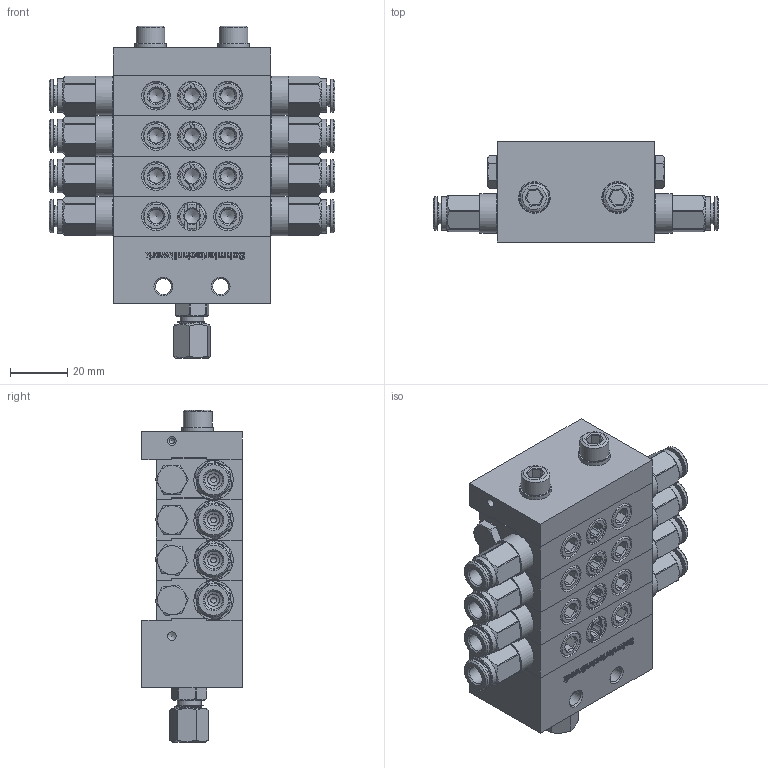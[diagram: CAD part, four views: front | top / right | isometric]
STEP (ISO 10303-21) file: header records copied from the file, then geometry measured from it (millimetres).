
FILE_DESCRIPTION (( 'STEP AP214' ), '1' );
FILE_NAME ('STW_XV_0143_08_0502_08_Auslässe.STEP', '2026-02-04T10:52:52', ( '' ), ( '' ), 'SwSTEP 2.0', 'SolidWorks 2022', '' );
FILE_SCHEMA (( 'AUTOMOTIVE_DESIGN' ));
Length unit declared in the file: millimetre
Products named in the file (18): STW_XV_Kolbenanschlag; 991214010601; M6X65_DIN_912; RIVOLUZIONE_0_2; 991214010601_Koerper; 991214010601_Mutter; Verschlussstopfen_1_8_2; U_Scheibe_6; STW_XV_Verbindungsstopen; XV_Mittelelement; H200139_HDS01_6_M10X1_08.05.17; 991214010601_Schneidring; STW_XV_ENGANG; STW_XV_0143_08_0502_08_Auslässe; STW_XV_END; OR 7.66X1.78_1; STW_XV_MITTEL_1; DR6-C_HDX_25.07.16_1
Assembly tree (46 placements, depth 3):
  STW_XV_0143_08_0502_08_Auslässe
    STW_XV_ENGANG
    STW_XV_MITTEL_1  x3
    STW_XV_END
    Verschlussstopfen_1_8_2  x6
    STW_XV_Kolbenanschlag  x6
    STW_XV_Verbindungsstopen  x3
    M6X65_DIN_912  x2
    U_Scheibe_6  x2
    991214010601
      991214010601_Koerper
      991214010601_Schneidring
      991214010601_Mutter
    XV_Mittelelement
      STW_XV_MITTEL_1
      STW_XV_Kolbenanschlag  x2
      Verschlussstopfen_1_8_2  x2
      STW_XV_Verbindungsstopen
    H200139_HDS01_6_M10X1_08.05.17  x8
      OR 7.66X1.78_1
      DR6-C_HDX_25.07.16_1
      RIVOLUZIONE_0_2
Bounding box: 99.6 x 35 x 115.68 mm (x, y, z)
Volume: 164505.1 mm3; surface area: 91896.5 mm2
Topology: 57 solids, 57 shells, 1962 faces, 5075 edges, 3272 vertices
Faces by surface type: plane 969, cylinder 465, cone 362, bspline 158, torus 8
Full cylindrical faces by diameter (mm): 2 x113, 3 x11, 4.2 x8, 4.5 x1, 5 x47, 5.5 x2, 5.9 x2, 6 x3, 6.2 x19, 6.3 x8, 6.4 x2, 6.5 x8, 7 x8, 7.2 x8, 7.4 x1, 7.67 x1, 8 x9, 8.3 x1, 8.4 x4, 8.5 x8, 8.6 x20, 9 x10, 9.7 x8, 9.73 x4, 9.8 x7, 9.9 x8, 10 x26, 10.3 x8, 11 x2, 11.5 x8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
Entity records: 44801 total; most frequent: CARTESIAN_POINT 22295, ORIENTED_EDGE 2994, DIRECTION 2617, EDGE_CURVE 1497, VERTEX_POINT 1072, EDGE_LOOP 1011, AXIS2_PLACEMENT_3D 935, FACE_OUTER_BOUND 812
